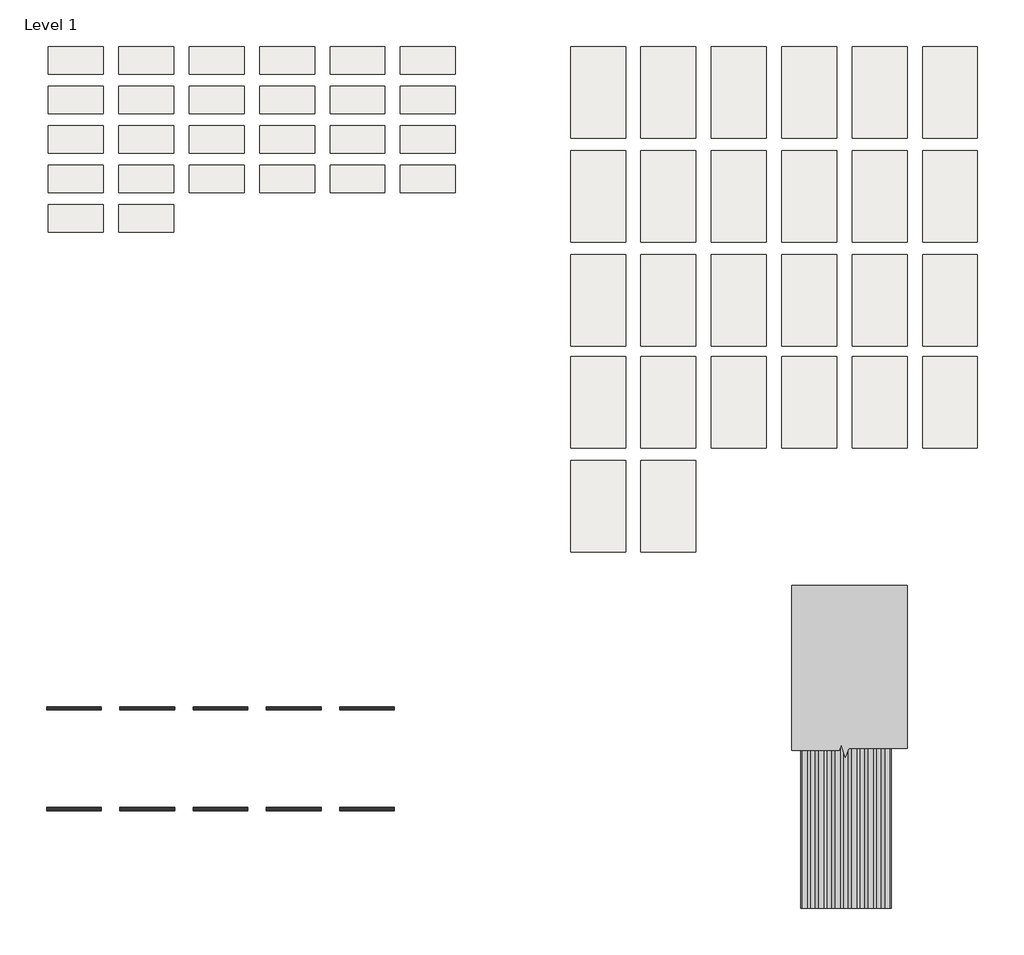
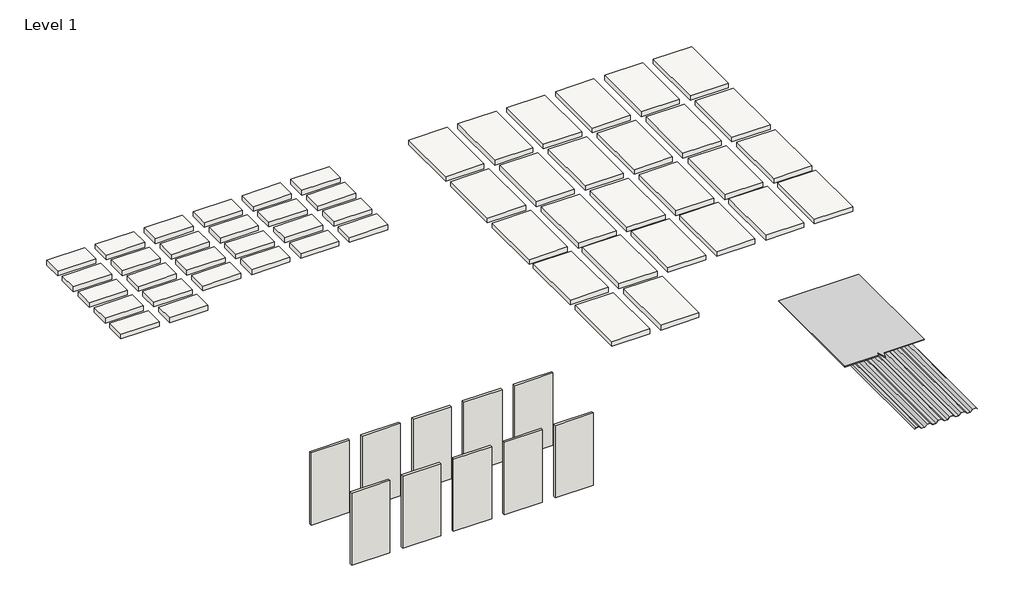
# One storey: 52 slabs, 10 walls, 2 proxies.
"""IFC4 building model written with IfcOpenShell, lengths in millimetres."""

from ifc_helpers import new_model, si_unit, frame, origin, origin_with_axes, place, context, project, spatial, polyline, outline, extrude, transform, mapped, element, save
from components import proxy_5ac39d22, section_mask3_section_mask_931ff8b5

model = new_model("IFC4")

# Units and contexts
model_context = context("Model", 3, world=origin())
ifc_project = project(units=[si_unit("LENGTHUNIT", "METRE", prefix="MILLI")], contexts=[model_context])

# Site, building, storey
site = spatial("IfcSite", under=ifc_project)
building = spatial("IfcBuilding", under=site)
storey = spatial("IfcBuildingStorey", under=building, Name="Level 1", Elevation=0.0)

# Proxies
placement = place(None, origin())
proxy_shape = proxy_5ac39d22(model_context)
element("IfcBuildingElementProxy", 1, Name="HR-36_Panel_AEP_Span : 36\" HR-36 Panel - 18ga", ObjectType="HR-36_Panel_AEP_Span : 36\" HR-36 Panel - 18ga", at=placement, inside=storey, context=model_context, shape_type="MappedRepresentation", body=[
    mapped(proxy_shape, transform((3931.3575151, 1243.2945614, 0.0), x_axis=(1.0, 0.0, 0.0), y_axis=(0.0, 1.0, 0.0), z_axis=(0.0, 0.0, 1.0))),
])
section_mask3_section_mask_shape = section_mask3_section_mask_931ff8b5(model_context)
element("IfcBuildingElementProxy", 2, Name="Section Mask3 : Section Mask", ObjectType="Section Mask3 : Section Mask", at=placement, inside=storey, context=model_context, shape_type="MappedRepresentation", body=[
    mapped(section_mask3_section_mask_shape, transform((-4265.7827055, -938.3023871, 0.0), x_axis=(1.0, 0.0, 0.0), y_axis=(0.0, 1.0, 0.0), z_axis=(0.0, 0.0, 1.0))),
])

# Slabs
element("IfcSlab", 3, ObjectType="AEP Span Material Sample", at=placement, inside=storey, context=model_context, shape_type="SweptSolid", body=[
    extrude(outline(polyline([(-4307.8660775, 7199.3976846), (-4917.4660775, 7199.3976846), (-4917.4660775, 7504.1976846), (-4307.8660775, 7504.1976846), (-4307.8660775, 7199.3976846)])), frame((0.0, 0.0, -79.375), z_axis=(0.0, 0.0, 1.0), x_axis=(1.0, 0.0, 0.0)), (0.0, 0.0, 1.0), 79.375),
])
element("IfcSlab", 4, ObjectType="AEP Span Material Sample", at=placement, inside=storey, context=model_context, shape_type="SweptSolid", body=[
    extrude(outline(polyline([(-3526.8160775, 7199.3976846), (-4136.4160775, 7199.3976846), (-4136.4160775, 7504.1976846), (-3526.8160775, 7504.1976846), (-3526.8160775, 7199.3976846)])), frame((0.0, 0.0, -79.375), z_axis=(0.0, 0.0, 1.0), x_axis=(1.0, 0.0, 0.0)), (0.0, 0.0, 1.0), 79.375),
])
element("IfcSlab", 5, ObjectType="AEP Span Material Sample", at=placement, inside=storey, context=model_context, shape_type="SweptSolid", body=[
    extrude(outline(polyline([(-2745.7660775, 7199.3976846), (-3355.3660775, 7199.3976846), (-3355.3660775, 7504.1976846), (-2745.7660775, 7504.1976846), (-2745.7660775, 7199.3976846)])), frame((0.0, 0.0, -79.375), z_axis=(0.0, 0.0, 1.0), x_axis=(1.0, 0.0, 0.0)), (0.0, 0.0, 1.0), 79.375),
])
element("IfcSlab", 6, ObjectType="AEP Span Material Sample", at=placement, inside=storey, context=model_context, shape_type="SweptSolid", body=[
    extrude(outline(polyline([(-1964.7160775, 7199.3976846), (-2574.3160775, 7199.3976846), (-2574.3160775, 7504.1976846), (-1964.7160775, 7504.1976846), (-1964.7160775, 7199.3976846)])), frame((0.0, 0.0, -79.375), z_axis=(0.0, 0.0, 1.0), x_axis=(1.0, 0.0, 0.0)), (0.0, 0.0, 1.0), 79.375),
])
element("IfcSlab", 7, ObjectType="AEP Span Material Sample", at=placement, inside=storey, context=model_context, shape_type="SweptSolid", body=[
    extrude(outline(polyline([(-1183.6660775, 7199.3976846), (-1793.2660775, 7199.3976846), (-1793.2660775, 7504.1976846), (-1183.6660775, 7504.1976846), (-1183.6660775, 7199.3976846)])), frame((0.0, 0.0, -79.375), z_axis=(0.0, 0.0, 1.0), x_axis=(1.0, 0.0, 0.0)), (0.0, 0.0, 1.0), 79.375),
])
element("IfcSlab", 8, ObjectType="AEP Span Material Sample", at=placement, inside=storey, context=model_context, shape_type="SweptSolid", body=[
    extrude(outline(polyline([(-402.6160775, 7199.3976846), (-1012.2160775, 7199.3976846), (-1012.2160775, 7504.1976846), (-402.6160775, 7504.1976846), (-402.6160775, 7199.3976846)])), frame((0.0, 0.0, -79.375), z_axis=(0.0, 0.0, 1.0), x_axis=(1.0, 0.0, 0.0)), (0.0, 0.0, 1.0), 79.375),
])
element("IfcSlab", 9, ObjectType="AEP Span Material Sample", at=placement, inside=storey, context=model_context, shape_type="SweptSolid", body=[
    extrude(outline(polyline([(-4307.8660775, 6761.2476846), (-4917.4660775, 6761.2476846), (-4917.4660775, 7066.0476846), (-4307.8660775, 7066.0476846), (-4307.8660775, 6761.2476846)])), frame((0.0, 0.0, -79.375), z_axis=(0.0, 0.0, 1.0), x_axis=(1.0, 0.0, 0.0)), (0.0, 0.0, 1.0), 79.375),
])
element("IfcSlab", 10, ObjectType="AEP Span Material Sample", at=placement, inside=storey, context=model_context, shape_type="SweptSolid", body=[
    extrude(outline(polyline([(-3526.8160775, 6761.2476846), (-4136.4160775, 6761.2476846), (-4136.4160775, 7066.0476846), (-3526.8160775, 7066.0476846), (-3526.8160775, 6761.2476846)])), frame((0.0, 0.0, -79.375), z_axis=(0.0, 0.0, 1.0), x_axis=(1.0, 0.0, 0.0)), (0.0, 0.0, 1.0), 79.375),
])
element("IfcSlab", 11, ObjectType="AEP Span Material Sample", at=placement, inside=storey, context=model_context, shape_type="SweptSolid", body=[
    extrude(outline(polyline([(-2745.7660775, 6761.2476846), (-3355.3660775, 6761.2476846), (-3355.3660775, 7066.0476846), (-2745.7660775, 7066.0476846), (-2745.7660775, 6761.2476846)])), frame((0.0, 0.0, -79.375), z_axis=(0.0, 0.0, 1.0), x_axis=(1.0, 0.0, 0.0)), (0.0, 0.0, 1.0), 79.375),
])
element("IfcSlab", 12, ObjectType="AEP Span Material Sample", at=placement, inside=storey, context=model_context, shape_type="SweptSolid", body=[
    extrude(outline(polyline([(-1964.7160775, 6761.2476846), (-2574.3160775, 6761.2476846), (-2574.3160775, 7066.0476846), (-1964.7160775, 7066.0476846), (-1964.7160775, 6761.2476846)])), frame((0.0, 0.0, -79.375), z_axis=(0.0, 0.0, 1.0), x_axis=(1.0, 0.0, 0.0)), (0.0, 0.0, 1.0), 79.375),
])
element("IfcSlab", 13, ObjectType="AEP Span Material Sample", at=placement, inside=storey, context=model_context, shape_type="SweptSolid", body=[
    extrude(outline(polyline([(-1183.6660775, 6761.2476846), (-1793.2660775, 6761.2476846), (-1793.2660775, 7066.0476846), (-1183.6660775, 7066.0476846), (-1183.6660775, 6761.2476846)])), frame((0.0, 0.0, -79.375), z_axis=(0.0, 0.0, 1.0), x_axis=(1.0, 0.0, 0.0)), (0.0, 0.0, 1.0), 79.375),
])
element("IfcSlab", 14, ObjectType="AEP Span Material Sample", at=placement, inside=storey, context=model_context, shape_type="SweptSolid", body=[
    extrude(outline(polyline([(-402.6160775, 6761.2476846), (-1012.2160775, 6761.2476846), (-1012.2160775, 7066.0476846), (-402.6160775, 7066.0476846), (-402.6160775, 6761.2476846)])), frame((0.0, 0.0, -79.375), z_axis=(0.0, 0.0, 1.0), x_axis=(1.0, 0.0, 0.0)), (0.0, 0.0, 1.0), 79.375),
])
element("IfcSlab", 15, ObjectType="AEP Span Material Sample", at=placement, inside=storey, context=model_context, shape_type="SweptSolid", body=[
    extrude(outline(polyline([(-4307.8660775, 6323.0976846), (-4917.4660775, 6323.0976846), (-4917.4660775, 6627.8976846), (-4307.8660775, 6627.8976846), (-4307.8660775, 6323.0976846)])), frame((0.0, 0.0, -79.375), z_axis=(0.0, 0.0, 1.0), x_axis=(1.0, 0.0, 0.0)), (0.0, 0.0, 1.0), 79.375),
])
element("IfcSlab", 16, ObjectType="AEP Span Material Sample", at=placement, inside=storey, context=model_context, shape_type="SweptSolid", body=[
    extrude(outline(polyline([(-3526.8160775, 6323.0976846), (-4136.4160775, 6323.0976846), (-4136.4160775, 6627.8976846), (-3526.8160775, 6627.8976846), (-3526.8160775, 6323.0976846)])), frame((0.0, 0.0, -79.375), z_axis=(0.0, 0.0, 1.0), x_axis=(1.0, 0.0, 0.0)), (0.0, 0.0, 1.0), 79.375),
])
element("IfcSlab", 17, ObjectType="AEP Span Material Sample", at=placement, inside=storey, context=model_context, shape_type="SweptSolid", body=[
    extrude(outline(polyline([(-2745.7660775, 6323.0976846), (-3355.3660775, 6323.0976846), (-3355.3660775, 6627.8976846), (-2745.7660775, 6627.8976846), (-2745.7660775, 6323.0976846)])), frame((0.0, 0.0, -79.375), z_axis=(0.0, 0.0, 1.0), x_axis=(1.0, 0.0, 0.0)), (0.0, 0.0, 1.0), 79.375),
])
element("IfcSlab", 18, ObjectType="AEP Span Material Sample", at=placement, inside=storey, context=model_context, shape_type="SweptSolid", body=[
    extrude(outline(polyline([(-1964.7160775, 6323.0976846), (-2574.3160775, 6323.0976846), (-2574.3160775, 6627.8976846), (-1964.7160775, 6627.8976846), (-1964.7160775, 6323.0976846)])), frame((0.0, 0.0, -79.375), z_axis=(0.0, 0.0, 1.0), x_axis=(1.0, 0.0, 0.0)), (0.0, 0.0, 1.0), 79.375),
])
element("IfcSlab", 19, ObjectType="AEP Span Material Sample", at=placement, inside=storey, context=model_context, shape_type="SweptSolid", body=[
    extrude(outline(polyline([(-1183.6660775, 6323.0976846), (-1793.2660775, 6323.0976846), (-1793.2660775, 6627.8976846), (-1183.6660775, 6627.8976846), (-1183.6660775, 6323.0976846)])), frame((0.0, 0.0, -79.375), z_axis=(0.0, 0.0, 1.0), x_axis=(1.0, 0.0, 0.0)), (0.0, 0.0, 1.0), 79.375),
])
element("IfcSlab", 20, ObjectType="AEP Span Material Sample", at=placement, inside=storey, context=model_context, shape_type="SweptSolid", body=[
    extrude(outline(polyline([(-402.6160775, 6323.0976846), (-1012.2160775, 6323.0976846), (-1012.2160775, 6627.8976846), (-402.6160775, 6627.8976846), (-402.6160775, 6323.0976846)])), frame((0.0, 0.0, -79.375), z_axis=(0.0, 0.0, 1.0), x_axis=(1.0, 0.0, 0.0)), (0.0, 0.0, 1.0), 79.375),
])
element("IfcSlab", 21, ObjectType="AEP Span Material Sample", at=placement, inside=storey, context=model_context, shape_type="SweptSolid", body=[
    extrude(outline(polyline([(-4307.8660775, 5884.9476846), (-4917.4660775, 5884.9476846), (-4917.4660775, 6189.7476846), (-4307.8660775, 6189.7476846), (-4307.8660775, 5884.9476846)])), frame((0.0, 0.0, -79.375), z_axis=(0.0, 0.0, 1.0), x_axis=(1.0, 0.0, 0.0)), (0.0, 0.0, 1.0), 79.375),
])
element("IfcSlab", 22, ObjectType="AEP Span Material Sample", at=placement, inside=storey, context=model_context, shape_type="SweptSolid", body=[
    extrude(outline(polyline([(-3526.8160775, 5884.9476846), (-4136.4160775, 5884.9476846), (-4136.4160775, 6189.7476846), (-3526.8160775, 6189.7476846), (-3526.8160775, 5884.9476846)])), frame((0.0, 0.0, -79.375), z_axis=(0.0, 0.0, 1.0), x_axis=(1.0, 0.0, 0.0)), (0.0, 0.0, 1.0), 79.375),
])
element("IfcSlab", 23, ObjectType="AEP Span Material Sample", at=placement, inside=storey, context=model_context, shape_type="SweptSolid", body=[
    extrude(outline(polyline([(-2745.7660775, 5884.9476846), (-3355.3660775, 5884.9476846), (-3355.3660775, 6189.7476846), (-2745.7660775, 6189.7476846), (-2745.7660775, 5884.9476846)])), frame((0.0, 0.0, -79.375), z_axis=(0.0, 0.0, 1.0), x_axis=(1.0, 0.0, 0.0)), (0.0, 0.0, 1.0), 79.375),
])
element("IfcSlab", 24, ObjectType="AEP Span Material Sample", at=placement, inside=storey, context=model_context, shape_type="SweptSolid", body=[
    extrude(outline(polyline([(-1964.7160775, 5884.9476846), (-2574.3160775, 5884.9476846), (-2574.3160775, 6189.7476846), (-1964.7160775, 6189.7476846), (-1964.7160775, 5884.9476846)])), frame((0.0, 0.0, -79.375), z_axis=(0.0, 0.0, 1.0), x_axis=(1.0, 0.0, 0.0)), (0.0, 0.0, 1.0), 79.375),
])
element("IfcSlab", 25, ObjectType="AEP Span Material Sample", at=placement, inside=storey, context=model_context, shape_type="SweptSolid", body=[
    extrude(outline(polyline([(-1183.6660775, 5884.9476846), (-1793.2660775, 5884.9476846), (-1793.2660775, 6189.7476846), (-1183.6660775, 6189.7476846), (-1183.6660775, 5884.9476846)])), frame((0.0, 0.0, -79.375), z_axis=(0.0, 0.0, 1.0), x_axis=(1.0, 0.0, 0.0)), (0.0, 0.0, 1.0), 79.375),
])
element("IfcSlab", 26, ObjectType="AEP Span Material Sample", at=placement, inside=storey, context=model_context, shape_type="SweptSolid", body=[
    extrude(outline(polyline([(-402.6160775, 5884.9476846), (-1012.2160775, 5884.9476846), (-1012.2160775, 6189.7476846), (-402.6160775, 6189.7476846), (-402.6160775, 5884.9476846)])), frame((0.0, 0.0, -79.375), z_axis=(0.0, 0.0, 1.0), x_axis=(1.0, 0.0, 0.0)), (0.0, 0.0, 1.0), 79.375),
])
element("IfcSlab", 27, ObjectType="AEP Span Material Sample", at=placement, inside=storey, context=model_context, shape_type="SweptSolid", body=[
    extrude(outline(polyline([(-4307.8660775, 5446.7976846), (-4917.4660775, 5446.7976846), (-4917.4660775, 5751.5976846), (-4307.8660775, 5751.5976846), (-4307.8660775, 5446.7976846)])), frame((0.0, 0.0, -79.375), z_axis=(0.0, 0.0, 1.0), x_axis=(1.0, 0.0, 0.0)), (0.0, 0.0, 1.0), 79.375),
])
element("IfcSlab", 28, ObjectType="AEP Span Material Sample", at=placement, inside=storey, context=model_context, shape_type="SweptSolid", body=[
    extrude(outline(polyline([(-3526.8160775, 5446.7976846), (-4136.4160775, 5446.7976846), (-4136.4160775, 5751.5976846), (-3526.8160775, 5751.5976846), (-3526.8160775, 5446.7976846)])), frame((0.0, 0.0, -79.375), z_axis=(0.0, 0.0, 1.0), x_axis=(1.0, 0.0, 0.0)), (0.0, 0.0, 1.0), 79.375),
])
element("IfcSlab", 29, ObjectType="AEP Span Material Sample", at=placement, inside=storey, context=model_context, shape_type="SweptSolid", body=[
    extrude(outline(polyline([(1485.5495194, 6492.0895229), (875.9495194, 6492.0895229), (875.9495194, 7508.0895229), (1485.5495194, 7508.0895229), (1485.5495194, 6492.0895229)])), frame((0.0, 0.0, -79.375), z_axis=(0.0, 0.0, 1.0), x_axis=(1.0, 0.0, 0.0)), (0.0, 0.0, 1.0), 79.375),
])
element("IfcSlab", 30, ObjectType="AEP Span Material Sample", at=placement, inside=storey, context=model_context, shape_type="SweptSolid", body=[
    extrude(outline(polyline([(2266.5995194, 6492.0895229), (1656.9995194, 6492.0895229), (1656.9995194, 7508.0895229), (2266.5995194, 7508.0895229), (2266.5995194, 6492.0895229)])), frame((0.0, 0.0, -79.375), z_axis=(0.0, 0.0, 1.0), x_axis=(1.0, 0.0, 0.0)), (0.0, 0.0, 1.0), 79.375),
])
element("IfcSlab", 31, ObjectType="AEP Span Material Sample", at=placement, inside=storey, context=model_context, shape_type="SweptSolid", body=[
    extrude(outline(polyline([(3047.6495194, 6492.0895229), (2438.0495194, 6492.0895229), (2438.0495194, 7508.0895229), (3047.6495194, 7508.0895229), (3047.6495194, 6492.0895229)])), frame((0.0, 0.0, -79.375), z_axis=(0.0, 0.0, 1.0), x_axis=(1.0, 0.0, 0.0)), (0.0, 0.0, 1.0), 79.375),
])
element("IfcSlab", 32, ObjectType="AEP Span Material Sample", at=placement, inside=storey, context=model_context, shape_type="SweptSolid", body=[
    extrude(outline(polyline([(3828.6995194, 6492.0895229), (3219.0995194, 6492.0895229), (3219.0995194, 7508.0895229), (3828.6995194, 7508.0895229), (3828.6995194, 6492.0895229)])), frame((0.0, 0.0, -79.375), z_axis=(0.0, 0.0, 1.0), x_axis=(1.0, 0.0, 0.0)), (0.0, 0.0, 1.0), 79.375),
])
element("IfcSlab", 33, ObjectType="AEP Span Material Sample", at=placement, inside=storey, context=model_context, shape_type="SweptSolid", body=[
    extrude(outline(polyline([(4609.7495194, 6492.0895229), (4000.1495194, 6492.0895229), (4000.1495194, 7508.0895229), (4609.7495194, 7508.0895229), (4609.7495194, 6492.0895229)])), frame((0.0, 0.0, -79.375), z_axis=(0.0, 0.0, 1.0), x_axis=(1.0, 0.0, 0.0)), (0.0, 0.0, 1.0), 79.375),
])
element("IfcSlab", 34, ObjectType="AEP Span Material Sample", at=placement, inside=storey, context=model_context, shape_type="SweptSolid", body=[
    extrude(outline(polyline([(5390.7995194, 6492.0895229), (4781.1995194, 6492.0895229), (4781.1995194, 7508.0895229), (5390.7995194, 7508.0895229), (5390.7995194, 6492.0895229)])), frame((0.0, 0.0, -79.375), z_axis=(0.0, 0.0, 1.0), x_axis=(1.0, 0.0, 0.0)), (0.0, 0.0, 1.0), 79.375),
])
element("IfcSlab", 35, ObjectType="AEP Span Material Sample", at=placement, inside=storey, context=model_context, shape_type="SweptSolid", body=[
    extrude(outline(polyline([(1485.5495194, 5336.3895229), (875.9495194, 5336.3895229), (875.9495194, 6352.3895229), (1485.5495194, 6352.3895229), (1485.5495194, 5336.3895229)])), frame((0.0, 0.0, -79.375), z_axis=(0.0, 0.0, 1.0), x_axis=(1.0, 0.0, 0.0)), (0.0, 0.0, 1.0), 79.375),
])
element("IfcSlab", 36, ObjectType="AEP Span Material Sample", at=placement, inside=storey, context=model_context, shape_type="SweptSolid", body=[
    extrude(outline(polyline([(2266.5995194, 5336.3895229), (1656.9995194, 5336.3895229), (1656.9995194, 6352.3895229), (2266.5995194, 6352.3895229), (2266.5995194, 5336.3895229)])), frame((0.0, 0.0, -79.375), z_axis=(0.0, 0.0, 1.0), x_axis=(1.0, 0.0, 0.0)), (0.0, 0.0, 1.0), 79.375),
])
element("IfcSlab", 37, ObjectType="AEP Span Material Sample", at=placement, inside=storey, context=model_context, shape_type="SweptSolid", body=[
    extrude(outline(polyline([(3047.6495194, 5336.3895229), (2438.0495194, 5336.3895229), (2438.0495194, 6352.3895229), (3047.6495194, 6352.3895229), (3047.6495194, 5336.3895229)])), frame((0.0, 0.0, -79.375), z_axis=(0.0, 0.0, 1.0), x_axis=(1.0, 0.0, 0.0)), (0.0, 0.0, 1.0), 79.375),
])
element("IfcSlab", 38, ObjectType="AEP Span Material Sample", at=placement, inside=storey, context=model_context, shape_type="SweptSolid", body=[
    extrude(outline(polyline([(3828.6995194, 5336.3895229), (3219.0995194, 5336.3895229), (3219.0995194, 6352.3895229), (3828.6995194, 6352.3895229), (3828.6995194, 5336.3895229)])), frame((0.0, 0.0, -79.375), z_axis=(0.0, 0.0, 1.0), x_axis=(1.0, 0.0, 0.0)), (0.0, 0.0, 1.0), 79.375),
])
element("IfcSlab", 39, ObjectType="AEP Span Material Sample", at=placement, inside=storey, context=model_context, shape_type="SweptSolid", body=[
    extrude(outline(polyline([(4609.7495194, 5336.3895229), (4000.1495194, 5336.3895229), (4000.1495194, 6352.3895229), (4609.7495194, 6352.3895229), (4609.7495194, 5336.3895229)])), frame((0.0, 0.0, -79.375), z_axis=(0.0, 0.0, 1.0), x_axis=(1.0, 0.0, 0.0)), (0.0, 0.0, 1.0), 79.375),
])
element("IfcSlab", 40, ObjectType="AEP Span Material Sample", at=placement, inside=storey, context=model_context, shape_type="SweptSolid", body=[
    extrude(outline(polyline([(5390.7995194, 5336.3895229), (4781.1995194, 5336.3895229), (4781.1995194, 6352.3895229), (5390.7995194, 6352.3895229), (5390.7995194, 5336.3895229)])), frame((0.0, 0.0, -79.375), z_axis=(0.0, 0.0, 1.0), x_axis=(1.0, 0.0, 0.0)), (0.0, 0.0, 1.0), 79.375),
])
element("IfcSlab", 41, ObjectType="AEP Span Material Sample", at=placement, inside=storey, context=model_context, shape_type="SweptSolid", body=[
    extrude(outline(polyline([(1485.5495194, 4180.6895229), (875.9495194, 4180.6895229), (875.9495194, 5196.6895229), (1485.5495194, 5196.6895229), (1485.5495194, 4180.6895229)])), frame((0.0, 0.0, -79.375), z_axis=(0.0, 0.0, 1.0), x_axis=(1.0, 0.0, 0.0)), (0.0, 0.0, 1.0), 79.375),
])
element("IfcSlab", 42, ObjectType="AEP Span Material Sample", at=placement, inside=storey, context=model_context, shape_type="SweptSolid", body=[
    extrude(outline(polyline([(2266.5995194, 4180.6895229), (1656.9995194, 4180.6895229), (1656.9995194, 5196.6895229), (2266.5995194, 5196.6895229), (2266.5995194, 4180.6895229)])), frame((0.0, 0.0, -79.375), z_axis=(0.0, 0.0, 1.0), x_axis=(1.0, 0.0, 0.0)), (0.0, 0.0, 1.0), 79.375),
])
element("IfcSlab", 43, ObjectType="AEP Span Material Sample", at=placement, inside=storey, context=model_context, shape_type="SweptSolid", body=[
    extrude(outline(polyline([(3047.6495194, 4180.6895229), (2438.0495194, 4180.6895229), (2438.0495194, 5196.6895229), (3047.6495194, 5196.6895229), (3047.6495194, 4180.6895229)])), frame((0.0, 0.0, -79.375), z_axis=(0.0, 0.0, 1.0), x_axis=(1.0, 0.0, 0.0)), (0.0, 0.0, 1.0), 79.375),
])
element("IfcSlab", 44, ObjectType="AEP Span Material Sample", at=placement, inside=storey, context=model_context, shape_type="SweptSolid", body=[
    extrude(outline(polyline([(3828.6995194, 4180.6895229), (3219.0995194, 4180.6895229), (3219.0995194, 5196.6895229), (3828.6995194, 5196.6895229), (3828.6995194, 4180.6895229)])), frame((0.0, 0.0, -79.375), z_axis=(0.0, 0.0, 1.0), x_axis=(1.0, 0.0, 0.0)), (0.0, 0.0, 1.0), 79.375),
])
element("IfcSlab", 45, ObjectType="AEP Span Material Sample", at=placement, inside=storey, context=model_context, shape_type="SweptSolid", body=[
    extrude(outline(polyline([(4609.7495194, 4180.6895229), (4000.1495194, 4180.6895229), (4000.1495194, 5196.6895229), (4609.7495194, 5196.6895229), (4609.7495194, 4180.6895229)])), frame((0.0, 0.0, -79.375), z_axis=(0.0, 0.0, 1.0), x_axis=(1.0, 0.0, 0.0)), (0.0, 0.0, 1.0), 79.375),
])
element("IfcSlab", 46, ObjectType="AEP Span Material Sample", at=placement, inside=storey, context=model_context, shape_type="SweptSolid", body=[
    extrude(outline(polyline([(5390.7995194, 4180.6895229), (4781.1995194, 4180.6895229), (4781.1995194, 5196.6895229), (5390.7995194, 5196.6895229), (5390.7995194, 4180.6895229)])), frame((0.0, 0.0, -79.375), z_axis=(0.0, 0.0, 1.0), x_axis=(1.0, 0.0, 0.0)), (0.0, 0.0, 1.0), 79.375),
])
element("IfcSlab", 47, ObjectType="AEP Span Material Sample", at=placement, inside=storey, context=model_context, shape_type="SweptSolid", body=[
    extrude(outline(polyline([(1485.5495194, 3050.3895229), (875.9495194, 3050.3895229), (875.9495194, 4066.3895229), (1485.5495194, 4066.3895229), (1485.5495194, 3050.3895229)])), frame((0.0, 0.0, -79.375), z_axis=(0.0, 0.0, 1.0), x_axis=(1.0, 0.0, 0.0)), (0.0, 0.0, 1.0), 79.375),
])
element("IfcSlab", 48, ObjectType="AEP Span Material Sample", at=placement, inside=storey, context=model_context, shape_type="SweptSolid", body=[
    extrude(outline(polyline([(2266.5995194, 3050.3895229), (1656.9995194, 3050.3895229), (1656.9995194, 4066.3895229), (2266.5995194, 4066.3895229), (2266.5995194, 3050.3895229)])), frame((0.0, 0.0, -79.375), z_axis=(0.0, 0.0, 1.0), x_axis=(1.0, 0.0, 0.0)), (0.0, 0.0, 1.0), 79.375),
])
element("IfcSlab", 49, ObjectType="AEP Span Material Sample", at=placement, inside=storey, context=model_context, shape_type="SweptSolid", body=[
    extrude(outline(polyline([(3047.6495194, 3050.3895229), (2438.0495194, 3050.3895229), (2438.0495194, 4066.3895229), (3047.6495194, 4066.3895229), (3047.6495194, 3050.3895229)])), frame((0.0, 0.0, -79.375), z_axis=(0.0, 0.0, 1.0), x_axis=(1.0, 0.0, 0.0)), (0.0, 0.0, 1.0), 79.375),
])
element("IfcSlab", 50, ObjectType="AEP Span Material Sample", at=placement, inside=storey, context=model_context, shape_type="SweptSolid", body=[
    extrude(outline(polyline([(3828.6995194, 3050.3895229), (3219.0995194, 3050.3895229), (3219.0995194, 4066.3895229), (3828.6995194, 4066.3895229), (3828.6995194, 3050.3895229)])), frame((0.0, 0.0, -79.375), z_axis=(0.0, 0.0, 1.0), x_axis=(1.0, 0.0, 0.0)), (0.0, 0.0, 1.0), 79.375),
])
element("IfcSlab", 51, ObjectType="AEP Span Material Sample", at=placement, inside=storey, context=model_context, shape_type="SweptSolid", body=[
    extrude(outline(polyline([(4609.7495194, 3050.3895229), (4000.1495194, 3050.3895229), (4000.1495194, 4066.3895229), (4609.7495194, 4066.3895229), (4609.7495194, 3050.3895229)])), frame((0.0, 0.0, -79.375), z_axis=(0.0, 0.0, 1.0), x_axis=(1.0, 0.0, 0.0)), (0.0, 0.0, 1.0), 79.375),
])
element("IfcSlab", 52, ObjectType="AEP Span Material Sample", at=placement, inside=storey, context=model_context, shape_type="SweptSolid", body=[
    extrude(outline(polyline([(5390.7995194, 3050.3895229), (4781.1995194, 3050.3895229), (4781.1995194, 4066.3895229), (5390.7995194, 4066.3895229), (5390.7995194, 3050.3895229)])), frame((0.0, 0.0, -79.375), z_axis=(0.0, 0.0, 1.0), x_axis=(1.0, 0.0, 0.0)), (0.0, 0.0, 1.0), 79.375),
])
element("IfcSlab", 53, ObjectType="AEP Span Material Sample", at=placement, inside=storey, context=model_context, shape_type="SweptSolid", body=[
    extrude(outline(polyline([(1485.5495194, 1894.6895229), (875.9495194, 1894.6895229), (875.9495194, 2910.6895229), (1485.5495194, 2910.6895229), (1485.5495194, 1894.6895229)])), frame((0.0, 0.0, -79.375), z_axis=(0.0, 0.0, 1.0), x_axis=(1.0, 0.0, 0.0)), (0.0, 0.0, 1.0), 79.375),
])
element("IfcSlab", 54, ObjectType="AEP Span Material Sample", at=placement, inside=storey, context=model_context, shape_type="SweptSolid", body=[
    extrude(outline(polyline([(2266.5995194, 1894.6895229), (1656.9995194, 1894.6895229), (1656.9995194, 2910.6895229), (2266.5995194, 2910.6895229), (2266.5995194, 1894.6895229)])), frame((0.0, 0.0, -79.375), z_axis=(0.0, 0.0, 1.0), x_axis=(1.0, 0.0, 0.0)), (0.0, 0.0, 1.0), 79.375),
])

# Walls
element("IfcWall", 55, ObjectType="36\" HR-36 Horizontal - 18ga", at=placement, inside=storey, context=model_context, shape_type="SweptSolid", body=[
    extrude(outline(polyline([(-4328.9575546, 141.2022943), (-4938.5575546, 141.2022943), (-4938.5575546, 179.3022943), (-4328.9575546, 179.3022943), (-4328.9575546, 141.2022943)])), origin_with_axes(), (0.0, 0.0, 1.0), 1219.2),
])
element("IfcWall", 56, ObjectType="36\" HR-36 Horizontal - 20ga", at=placement, inside=storey, context=model_context, shape_type="SweptSolid", body=[
    extrude(outline(polyline([(-3516.1575546, 141.2022943), (-4125.7575546, 141.2022943), (-4125.7575546, 179.3022943), (-3516.1575546, 179.3022943), (-3516.1575546, 141.2022943)])), origin_with_axes(), (0.0, 0.0, 1.0), 1219.2),
])
element("IfcWall", 57, ObjectType="36\" HR-36 Horizontal - 22ga", at=placement, inside=storey, context=model_context, shape_type="SweptSolid", body=[
    extrude(outline(polyline([(-2703.3575546, 141.2022943), (-3312.9575546, 141.2022943), (-3312.9575546, 179.3022943), (-2703.3575546, 179.3022943), (-2703.3575546, 141.2022943)])), origin_with_axes(), (0.0, 0.0, 1.0), 1219.2),
])
element("IfcWall", 58, ObjectType="36\" HR-36 Horizontal - 24ga", at=placement, inside=storey, context=model_context, shape_type="SweptSolid", body=[
    extrude(outline(polyline([(-1890.5575546, 141.2022943), (-2500.1575546, 141.2022943), (-2500.1575546, 179.3022943), (-1890.5575546, 179.3022943), (-1890.5575546, 141.2022943)])), origin_with_axes(), (0.0, 0.0, 1.0), 1219.2),
])
element("IfcWall", 59, ObjectType="36\" HR-36 Horizontal - 26ga", at=placement, inside=storey, context=model_context, shape_type="SweptSolid", body=[
    extrude(outline(polyline([(-1077.7575546, 141.2022943), (-1687.3575546, 141.2022943), (-1687.3575546, 179.3022943), (-1077.7575546, 179.3022943), (-1077.7575546, 141.2022943)])), origin_with_axes(), (0.0, 0.0, 1.0), 1219.2),
])
element("IfcWall", 60, ObjectType="36\" HR-36 Vertical - 18ga 2", at=placement, inside=storey, context=model_context, shape_type="SweptSolid", body=[
    extrude(outline(polyline([(-4328.9575546, -976.3977057), (-4938.5575546, -976.3977057), (-4938.5575546, -938.2977057), (-4328.9575546, -938.2977057), (-4328.9575546, -976.3977057)])), origin_with_axes(), (0.0, 0.0, 1.0), 1219.2),
])
element("IfcWall", 61, ObjectType="36\" HR-36 Vertical - 20ga", at=placement, inside=storey, context=model_context, shape_type="SweptSolid", body=[
    extrude(outline(polyline([(-3516.1575546, -976.3977057), (-4125.7575546, -976.3977057), (-4125.7575546, -938.2977057), (-3516.1575546, -938.2977057), (-3516.1575546, -976.3977057)])), origin_with_axes(), (0.0, 0.0, 1.0), 1219.2),
])
element("IfcWall", 62, ObjectType="36\" HR-36 Vertical - 22ga", at=placement, inside=storey, context=model_context, shape_type="SweptSolid", body=[
    extrude(outline(polyline([(-2703.3575546, -976.3977057), (-3312.9575546, -976.3977057), (-3312.9575546, -938.2977057), (-2703.3575546, -938.2977057), (-2703.3575546, -976.3977057)])), origin_with_axes(), (0.0, 0.0, 1.0), 1219.2),
])
element("IfcWall", 63, ObjectType="36\" HR-36 Vertical - 24ga", at=placement, inside=storey, context=model_context, shape_type="SweptSolid", body=[
    extrude(outline(polyline([(-1890.5575546, -976.3977057), (-2500.1575546, -976.3977057), (-2500.1575546, -938.2977057), (-1890.5575546, -938.2977057), (-1890.5575546, -976.3977057)])), origin_with_axes(), (0.0, 0.0, 1.0), 1219.2),
])
element("IfcWall", 64, ObjectType="36\" HR-36 Vertical - 26ga", at=placement, inside=storey, context=model_context, shape_type="SweptSolid", body=[
    extrude(outline(polyline([(-1077.7575546, -976.3977057), (-1687.3575546, -976.3977057), (-1687.3575546, -938.2977057), (-1077.7575546, -938.2977057), (-1077.7575546, -976.3977057)])), origin_with_axes(), (0.0, 0.0, 1.0), 1219.2),
])

save(model, "model.ifc")
